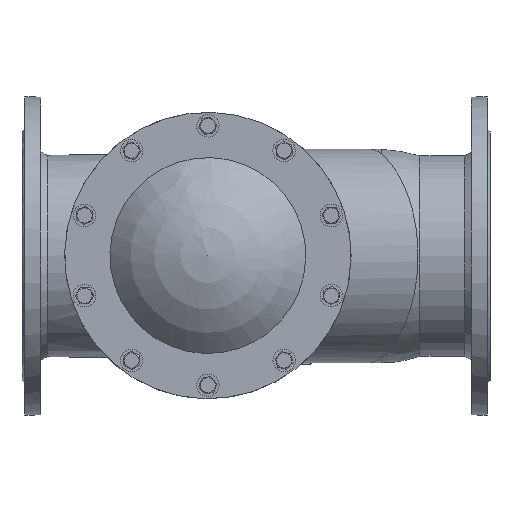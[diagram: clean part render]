
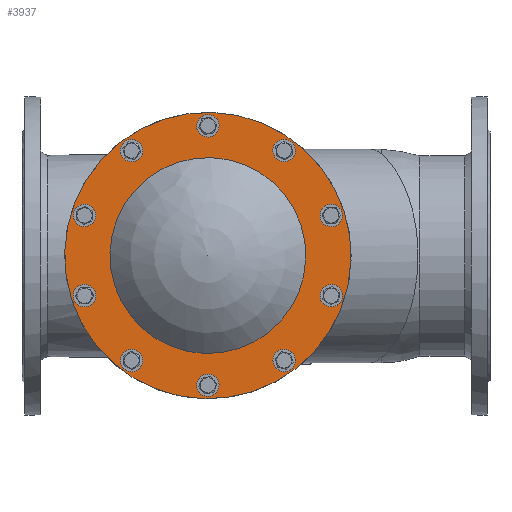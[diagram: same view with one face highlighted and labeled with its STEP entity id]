
A CAD part, top view. The second image highlights one B-rep face of the part: STEP entity #3937.
In plain terms, the highlighted planar face has unit normal (0, 0, 1).
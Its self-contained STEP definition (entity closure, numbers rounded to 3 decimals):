
#3937=ADVANCED_FACE('',(#7549,#7551,#7553,#7555,#7557,#7559,#7561,#7563,#7565,#7567,
#7569,#7571),#7573,.T.);
#7549=FACE_BOUND('',#7550,.T.);
#7550=EDGE_LOOP('',(#11751));
#7551=FACE_BOUND('',#7552,.T.);
#7552=EDGE_LOOP('',(#11752));
#7553=FACE_BOUND('',#7554,.T.);
#7554=EDGE_LOOP('',(#11753));
#7555=FACE_BOUND('',#7556,.T.);
#7556=EDGE_LOOP('',(#11754));
#7557=FACE_BOUND('',#7558,.T.);
#7558=EDGE_LOOP('',(#11755));
#7559=FACE_BOUND('',#7560,.T.);
#7560=EDGE_LOOP('',(#11756));
#7561=FACE_BOUND('',#7562,.T.);
#7562=EDGE_LOOP('',(#11757));
#7563=FACE_BOUND('',#7564,.T.);
#7564=EDGE_LOOP('',(#11758));
#7565=FACE_BOUND('',#7566,.T.);
#7566=EDGE_LOOP('',(#11759));
#7567=FACE_BOUND('',#7568,.T.);
#7568=EDGE_LOOP('',(#11760));
#7569=FACE_BOUND('',#7570,.T.);
#7570=EDGE_LOOP('',(#11761));
#7571=FACE_BOUND('',#7572,.T.);
#7572=EDGE_LOOP('',(#11762));
#7573=PLANE('',#7574);
#7574=AXIS2_PLACEMENT_3D('',#7575,#7576,#7577);
#7575=CARTESIAN_POINT('',(0.,0.,14.));
#7576=DIRECTION('',(0.,0.,1.));
#7577=DIRECTION('',(-1.,0.,0.));
#11751=ORIENTED_EDGE('',*,*,#12897,.T.);
#11752=ORIENTED_EDGE('',*,*,#12896,.T.);
#11753=ORIENTED_EDGE('',*,*,#12898,.T.);
#11754=ORIENTED_EDGE('',*,*,#12899,.T.);
#11755=ORIENTED_EDGE('',*,*,#12900,.T.);
#11756=ORIENTED_EDGE('',*,*,#12901,.T.);
#11757=ORIENTED_EDGE('',*,*,#12902,.T.);
#11758=ORIENTED_EDGE('',*,*,#12903,.T.);
#11759=ORIENTED_EDGE('',*,*,#12904,.T.);
#11760=ORIENTED_EDGE('',*,*,#12905,.T.);
#11761=ORIENTED_EDGE('',*,*,#12906,.T.);
#11762=ORIENTED_EDGE('',*,*,#12907,.T.);
#12896=EDGE_CURVE('',#14554,#14554,#14555,.F.);
#12897=EDGE_CURVE('',#14556,#14556,#14557,.T.);
#12898=EDGE_CURVE('',#14558,#14558,#14559,.F.);
#12899=EDGE_CURVE('',#14560,#14560,#14561,.F.);
#12900=EDGE_CURVE('',#14562,#14562,#14563,.F.);
#12901=EDGE_CURVE('',#14564,#14564,#14565,.F.);
#12902=EDGE_CURVE('',#14566,#14566,#14567,.F.);
#12903=EDGE_CURVE('',#14568,#14568,#14569,.F.);
#12904=EDGE_CURVE('',#14570,#14570,#14571,.F.);
#12905=EDGE_CURVE('',#14572,#14572,#14573,.F.);
#12906=EDGE_CURVE('',#14574,#14574,#14575,.F.);
#12907=EDGE_CURVE('',#14576,#14576,#14577,.F.);
#14554=VERTEX_POINT('',#20535);
#14555=CIRCLE('',#20536,104.645);
#14556=VERTEX_POINT('',#20540);
#14557=CIRCLE('',#20541,153.);
#14558=VERTEX_POINT('',#20545);
#14559=CIRCLE('',#20546,7.);
#14560=VERTEX_POINT('',#20550);
#14561=CIRCLE('',#20551,7.);
#14562=VERTEX_POINT('',#20555);
#14563=CIRCLE('',#20556,7.);
#14564=VERTEX_POINT('',#20560);
#14565=CIRCLE('',#20561,7.);
#14566=VERTEX_POINT('',#20565);
#14567=CIRCLE('',#20566,7.);
#14568=VERTEX_POINT('',#20570);
#14569=CIRCLE('',#20571,7.);
#14570=VERTEX_POINT('',#20575);
#14571=CIRCLE('',#20576,7.);
#14572=VERTEX_POINT('',#20580);
#14573=CIRCLE('',#20581,7.);
#14574=VERTEX_POINT('',#20585);
#14575=CIRCLE('',#20586,7.);
#14576=VERTEX_POINT('',#20590);
#14577=CIRCLE('',#20591,7.);
#20535=CARTESIAN_POINT('',(0.,104.645,14.));
#20536=AXIS2_PLACEMENT_3D('',#20537,#20538,#20539);
#20537=CARTESIAN_POINT('',(0.,0.,14.));
#20538=DIRECTION('',(0.,0.,1.));
#20539=DIRECTION('',(0.,1.,0.));
#20540=CARTESIAN_POINT('',(-153.,0.,14.));
#20541=AXIS2_PLACEMENT_3D('',#20542,#20543,#20544);
#20542=CARTESIAN_POINT('',(0.,0.,14.));
#20543=DIRECTION('',(0.,0.,1.));
#20544=DIRECTION('',(-1.,0.,0.));
#20545=CARTESIAN_POINT('',(116.244,-87.13,14.));
#20546=AXIS2_PLACEMENT_3D('',#20547,#20548,#20549);
#20547=CARTESIAN_POINT('',(112.13,-81.467,14.));
#20548=DIRECTION('',(0.,0.,1.));
#20549=DIRECTION('',(0.588,-0.809,0.));
#20550=CARTESIAN_POINT('',(145.257,-2.163,14.));
#20551=AXIS2_PLACEMENT_3D('',#20552,#20553,#20554);
#20552=CARTESIAN_POINT('',(138.6,0.,14.));
#20553=DIRECTION('',(0.,0.,1.));
#20554=DIRECTION('',(0.951,-0.309,0.));
#20555=CARTESIAN_POINT('',(118.787,83.63,14.));
#20556=AXIS2_PLACEMENT_3D('',#20557,#20558,#20559);
#20557=CARTESIAN_POINT('',(112.13,81.467,14.));
#20558=DIRECTION('',(0.,0.,1.));
#20559=DIRECTION('',(0.951,0.309,0.));
#20560=CARTESIAN_POINT('',(46.944,137.48,14.));
#20561=AXIS2_PLACEMENT_3D('',#20562,#20563,#20564);
#20562=CARTESIAN_POINT('',(42.83,131.816,14.));
#20563=DIRECTION('',(0.,0.,1.));
#20564=DIRECTION('',(0.588,0.809,0.));
#20565=CARTESIAN_POINT('',(-42.83,138.816,14.));
#20566=AXIS2_PLACEMENT_3D('',#20567,#20568,#20569);
#20567=CARTESIAN_POINT('',(-42.83,131.816,14.));
#20568=DIRECTION('',(0.,0.,1.));
#20569=DIRECTION('',(0.,1.,0.));
#20570=CARTESIAN_POINT('',(-116.244,87.13,14.));
#20571=AXIS2_PLACEMENT_3D('',#20572,#20573,#20574);
#20572=CARTESIAN_POINT('',(-112.13,81.467,14.));
#20573=DIRECTION('',(0.,0.,1.));
#20574=DIRECTION('',(-0.588,0.809,0.));
#20575=CARTESIAN_POINT('',(-145.257,2.163,14.));
#20576=AXIS2_PLACEMENT_3D('',#20577,#20578,#20579);
#20577=CARTESIAN_POINT('',(-138.6,0.,14.));
#20578=DIRECTION('',(0.,0.,1.));
#20579=DIRECTION('',(-0.951,0.309,0.));
#20580=CARTESIAN_POINT('',(-118.787,-83.63,14.));
#20581=AXIS2_PLACEMENT_3D('',#20582,#20583,#20584);
#20582=CARTESIAN_POINT('',(-112.13,-81.467,14.));
#20583=DIRECTION('',(0.,0.,1.));
#20584=DIRECTION('',(-0.951,-0.309,0.));
#20585=CARTESIAN_POINT('',(-46.944,-137.48,14.));
#20586=AXIS2_PLACEMENT_3D('',#20587,#20588,#20589);
#20587=CARTESIAN_POINT('',(-42.83,-131.816,14.));
#20588=DIRECTION('',(0.,0.,1.));
#20589=DIRECTION('',(-0.588,-0.809,0.));
#20590=CARTESIAN_POINT('',(42.83,-138.816,14.));
#20591=AXIS2_PLACEMENT_3D('',#20592,#20593,#20594);
#20592=CARTESIAN_POINT('',(42.83,-131.816,14.));
#20593=DIRECTION('',(0.,0.,1.));
#20594=DIRECTION('',(0.,-1.,0.));
